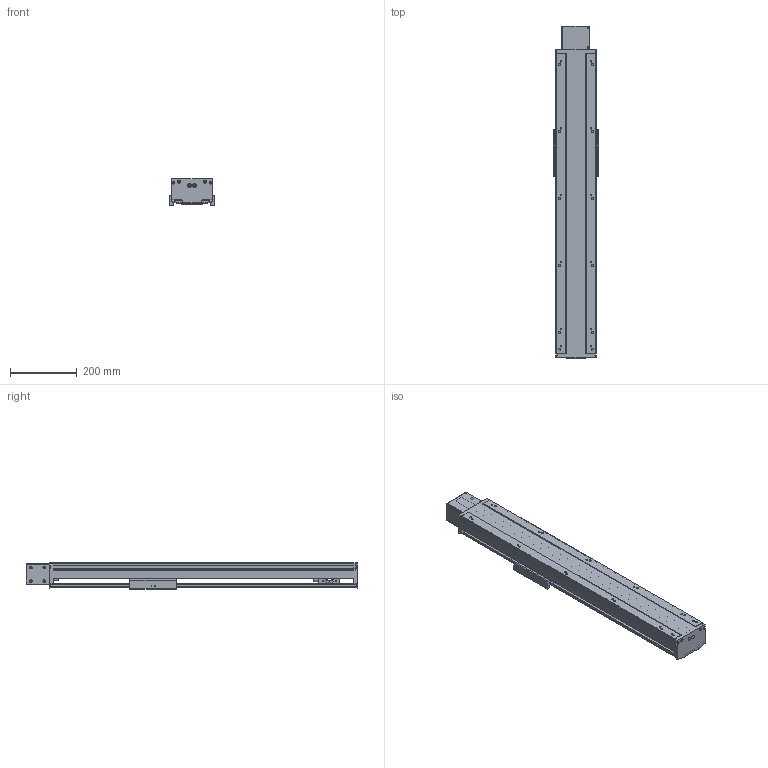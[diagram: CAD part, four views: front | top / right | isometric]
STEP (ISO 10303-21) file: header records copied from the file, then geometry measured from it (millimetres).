
FILE_DESCRIPTION(/* description */ (''),/* implementation_level */ '2;1');
FILE_NAME(/* name */ 'TKB120-FR-600_asm1_stp.stp',/* time_stamp */ '2016-06-28T16:02:30+08:00',/* author */ (''),/* organization */ (''),/* preprocessor_version */ 'ST-DEVELOPER v15',/* originating_system */ 'SIEMENS PLM Software NX 8.5',/* authorisation */ '');
FILE_SCHEMA (('AUTOMOTIVE_DESIGN { 1 0 10303 214 3 1 1 1 }'));
Length unit declared in the file: millimetre
Products named in the file (3): 200-2; 200-1; TKB120-FR-600_asm1_stp
Assembly tree (2 placements, depth 2):
  TKB120-FR-600_asm1_stp
    200-1
    200-2
Bounding box: 134 x 991 x 80 mm (x, y, z)
Volume: 2753356.2 mm3; surface area: 1071160 mm2
Topology: 2 solids, 3 shells, 767 faces, 2183 edges, 1428 vertices
Faces by surface type: cylinder 373, plane 352, cone 42
Full cylindrical faces by diameter (mm): 2.5 x4, 3.3 x20, 4.2 x4, 4.5 x24, 5 x22, 5.5 x12, 6.6 x6, 6.8 x4, 7.5 x4, 8 x12, 9 x6, 9.75 x24, 10.5 x4, 11 x2, 12 x4, 14 x2, 17 x2, 35 x2, 40 x3, 50 x2, 52 x1
Entity records: 24743 total; most frequent: CARTESIAN_POINT 5199, DIRECTION 4126, ORIENTED_EDGE 3764, EDGE_CURVE 1882, AXIS2_PLACEMENT_3D 1562, VERTEX_POINT 1375, EDGE_LOOP 1131, LINE 1002
